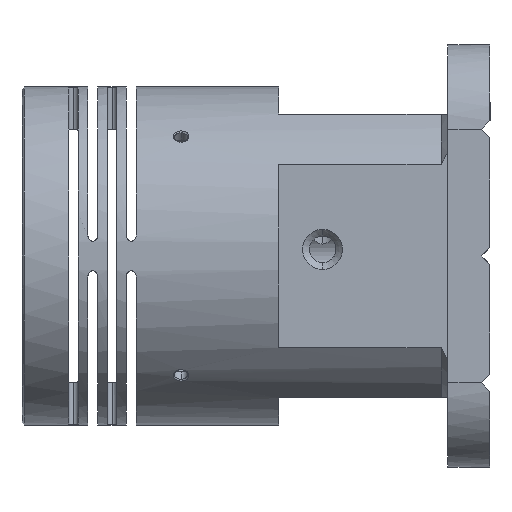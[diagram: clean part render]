
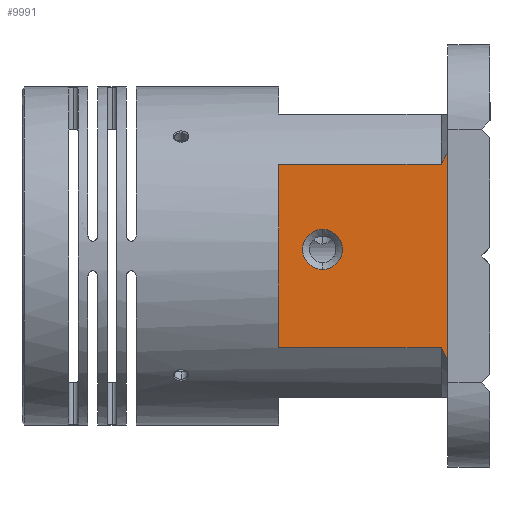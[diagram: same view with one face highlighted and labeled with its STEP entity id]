
A CAD part, left-side view. The second image highlights one B-rep face of the part: STEP entity #9991.
In plain terms, the highlighted planar face has unit normal (-1, 0, 0).
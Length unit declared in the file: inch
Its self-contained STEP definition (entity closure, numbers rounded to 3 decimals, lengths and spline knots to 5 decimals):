
#388 = ORIENTED_EDGE ( 'NONE', *, *, #6747, .F. ) ;
#544 = ORIENTED_EDGE ( 'NONE', *, *, #11986, .T. ) ;
#622 = CARTESIAN_POINT ( 'NONE',  ( -0.84, -0.40499, 0.58919 ) ) ;
#679 = VERTEX_POINT ( 'NONE', #4808 ) ;
#815 = VERTEX_POINT ( 'NONE', #12477 ) ;
#1052 = VERTEX_POINT ( 'NONE', #1729 ) ;
#1186 = LINE ( 'NONE', #12809, #9551 ) ;
#1302 = VECTOR ( 'NONE', #8473, 39.37008 ) ;
#1527 = CARTESIAN_POINT ( 'NONE',  ( -0.84, 2.42942, 0. ) ) ;
#1558 = DIRECTION ( 'NONE',  ( 0., -1., 0. ) ) ;
#1729 = CARTESIAN_POINT ( 'NONE',  ( -0.84, 0.32189, -0.07874 ) ) ;
#1947 = CARTESIAN_POINT ( 'NONE',  ( -0.84, -0.4185, 0.61212 ) ) ;
#1969 = B_SPLINE_CURVE_WITH_KNOTS ( 'NONE', 3,
 ( #6792, #9219, #2400, #5801 ),
 .UNSPECIFIED., .F., .F.,
 ( 4, 4 ),
 ( 0.02196, 0.024 ),
 .UNSPECIFIED. ) ;
#2057 = EDGE_CURVE ( 'NONE', #1052, #4158, #8988, .T. ) ;
#2204 = ORIENTED_EDGE ( 'NONE', *, *, #7610, .T. ) ;
#2400 = CARTESIAN_POINT ( 'NONE',  ( -0.84, -0.39183, -0.56599 ) ) ;
#2419 = CARTESIAN_POINT ( 'NONE',  ( -0.84, 0.32189, 0.03937 ) ) ;
#2480 = DIRECTION ( 'NONE',  ( 0., 0., -1. ) ) ;
#3468 = DIRECTION ( 'NONE',  ( 1., 0., 0. ) ) ;
#3637 = AXIS2_PLACEMENT_3D ( 'NONE', #1527, #6139, #13066 ) ;
#3865 = FACE_OUTER_BOUND ( 'NONE', #7562, .T. ) ;
#3872 = ORIENTED_EDGE ( 'NONE', *, *, #7433, .F. ) ;
#4158 = VERTEX_POINT ( 'NONE', #9548 ) ;
#4343 = EDGE_CURVE ( 'NONE', #679, #11641, #1186, .T. ) ;
#4690 = ORIENTED_EDGE ( 'NONE', *, *, #14787, .T. ) ;
#4739 = CARTESIAN_POINT ( 'NONE',  ( -0.84, 0.32189, 0.03937 ) ) ;
#4808 = CARTESIAN_POINT ( 'NONE',  ( -0.84, -0.37913, 0.54259 ) ) ;
#4887 = CARTESIAN_POINT ( 'NONE',  ( -0.84, -0.37913, 0.54259 ) ) ;
#5082 = PLANE ( 'NONE',  #3637 ) ;
#5147 = ORIENTED_EDGE ( 'NONE', *, *, #2057, .T. ) ;
#5451 = LINE ( 'NONE', #7582, #10667 ) ;
#5541 = EDGE_LOOP ( 'NONE', ( #14522, #5147 ) ) ;
#5801 = CARTESIAN_POINT ( 'NONE',  ( -0.84, -0.37913, -0.54259 ) ) ;
#5853 = CARTESIAN_POINT ( 'NONE',  ( -0.84, 0.5815, 0.54259 ) ) ;
#6139 = DIRECTION ( 'NONE',  ( 1., 0., 0. ) ) ;
#6250 = CARTESIAN_POINT ( 'NONE',  ( -0.84, -0.406, -0.54259 ) ) ;
#6411 = EDGE_CURVE ( 'NONE', #4158, #1052, #13054, .T. ) ;
#6747 = EDGE_CURVE ( 'NONE', #9034, #14906, #1969, .T. ) ;
#6792 = CARTESIAN_POINT ( 'NONE',  ( -0.84, -0.4185, -0.61212 ) ) ;
#7208 = AXIS2_PLACEMENT_3D ( 'NONE', #2419, #3468, #8245 ) ;
#7433 = EDGE_CURVE ( 'NONE', #679, #12692, #10096, .T. ) ;
#7562 = EDGE_LOOP ( 'NONE', ( #544, #3872, #8341, #4690, #2204, #388 ) ) ;
#7582 = CARTESIAN_POINT ( 'NONE',  ( -0.84, -0.4185, 0. ) ) ;
#7610 = EDGE_CURVE ( 'NONE', #815, #14906, #13244, .T. ) ;
#7710 = VECTOR ( 'NONE', #1558, 39.37008 ) ;
#7850 = DIRECTION ( 'NONE',  ( 0., 1., 0. ) ) ;
#8245 = DIRECTION ( 'NONE',  ( 0., 0., -1. ) ) ;
#8341 = ORIENTED_EDGE ( 'NONE', *, *, #4343, .T. ) ;
#8422 = FACE_BOUND ( 'NONE', #5541, .T. ) ;
#8473 = DIRECTION ( 'NONE',  ( 0., 0., -1. ) ) ;
#8766 = CARTESIAN_POINT ( 'NONE',  ( -0.84, 0.5815, 0. ) ) ;
#8988 = CIRCLE ( 'NONE', #13130, 0.11811 ) ;
#9034 = VERTEX_POINT ( 'NONE', #9669 ) ;
#9219 = CARTESIAN_POINT ( 'NONE',  ( -0.84, -0.40497, -0.58915 ) ) ;
#9364 = DIRECTION ( 'NONE',  ( 1., 0., 0. ) ) ;
#9548 = CARTESIAN_POINT ( 'NONE',  ( -0.84, 0.32189, 0.15748 ) ) ;
#9551 = VECTOR ( 'NONE', #7850, 39.37008 ) ;
#9669 = CARTESIAN_POINT ( 'NONE',  ( -0.84, -0.4185, -0.61212 ) ) ;
#9991 = ADVANCED_FACE ( 'NONE', ( #8422, #3865 ), #5082, .F. ) ;
#10096 = B_SPLINE_CURVE_WITH_KNOTS ( 'NONE', 3,
 ( #4887, #13956, #622, #14483 ),
 .UNSPECIFIED., .F., .F.,
 ( 4, 4 ),
 ( 0.01083, 0.01285 ),
 .UNSPECIFIED. ) ;
#10667 = VECTOR ( 'NONE', #13536, 39.37008 ) ;
#11256 = CARTESIAN_POINT ( 'NONE',  ( -0.84, -0.37913, -0.54259 ) ) ;
#11641 = VERTEX_POINT ( 'NONE', #5853 ) ;
#11986 = EDGE_CURVE ( 'NONE', #9034, #12692, #5451, .T. ) ;
#12038 = LINE ( 'NONE', #8766, #1302 ) ;
#12477 = CARTESIAN_POINT ( 'NONE',  ( -0.84, 0.5815, -0.54259 ) ) ;
#12692 = VERTEX_POINT ( 'NONE', #1947 ) ;
#12809 = CARTESIAN_POINT ( 'NONE',  ( -0.84, -0.406, 0.54259 ) ) ;
#13054 = CIRCLE ( 'NONE', #7208, 0.11811 ) ;
#13066 = DIRECTION ( 'NONE',  ( 0., 0., -1. ) ) ;
#13130 = AXIS2_PLACEMENT_3D ( 'NONE', #4739, #9364, #2480 ) ;
#13244 = LINE ( 'NONE', #6250, #7710 ) ;
#13536 = DIRECTION ( 'NONE',  ( 0., 0., 1. ) ) ;
#13956 = CARTESIAN_POINT ( 'NONE',  ( -0.84, -0.39185, 0.56602 ) ) ;
#14483 = CARTESIAN_POINT ( 'NONE',  ( -0.84, -0.4185, 0.61212 ) ) ;
#14522 = ORIENTED_EDGE ( 'NONE', *, *, #6411, .T. ) ;
#14787 = EDGE_CURVE ( 'NONE', #11641, #815, #12038, .T. ) ;
#14906 = VERTEX_POINT ( 'NONE', #11256 ) ;
